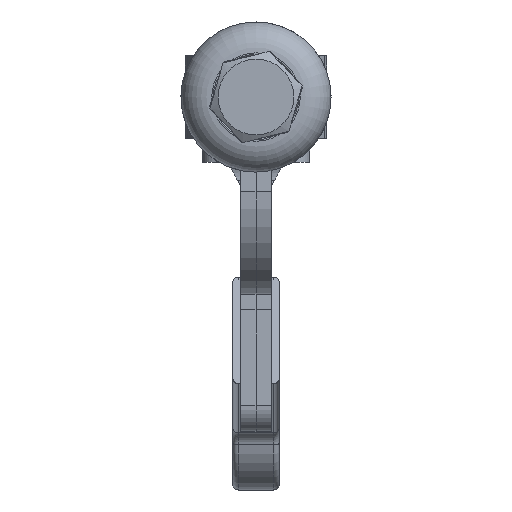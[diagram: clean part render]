
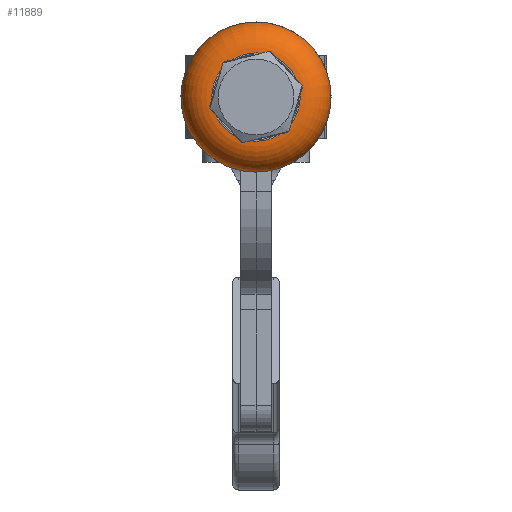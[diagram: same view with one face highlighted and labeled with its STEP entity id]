
A CAD part, left-side view. The second image highlights one B-rep face of the part: STEP entity #11889.
In plain terms, the highlighted toroidal (fillet/blend) face has major radius 8.6 mm and minor radius 6 mm.
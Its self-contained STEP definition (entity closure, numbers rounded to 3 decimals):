
#2711=TOROIDAL_SURFACE('',#12811,8.6,6.);
#3233=FACE_OUTER_BOUND('',#3924,.T.);
#3924=EDGE_LOOP('',(#10697,#10698,#10699,#10700,#10701,#10702));
#4772=CIRCLE('',#12812,14.6);
#4773=CIRCLE('',#12813,14.6);
#4774=CIRCLE('',#12814,6.);
#4775=CIRCLE('',#12815,8.6);
#4776=CIRCLE('',#12816,8.6);
#5838=VERTEX_POINT('',#31049);
#5839=VERTEX_POINT('',#31050);
#5840=VERTEX_POINT('',#31053);
#5841=VERTEX_POINT('',#31055);
#7503=EDGE_CURVE('',#5838,#5839,#4772,.T.);
#7504=EDGE_CURVE('',#5839,#5838,#4773,.T.);
#7505=EDGE_CURVE('',#5839,#5840,#4774,.T.);
#7506=EDGE_CURVE('',#5841,#5840,#4775,.T.);
#7507=EDGE_CURVE('',#5840,#5841,#4776,.T.);
#10697=ORIENTED_EDGE('',*,*,#7503,.F.);
#10698=ORIENTED_EDGE('',*,*,#7504,.F.);
#10699=ORIENTED_EDGE('',*,*,#7505,.T.);
#10700=ORIENTED_EDGE('',*,*,#7506,.F.);
#10701=ORIENTED_EDGE('',*,*,#7507,.F.);
#10702=ORIENTED_EDGE('',*,*,#7505,.F.);
#11889=ADVANCED_FACE('',(#3233),#2711,.T.);
#12811=AXIS2_PLACEMENT_3D('',#31048,#14962,#14963);
#12812=AXIS2_PLACEMENT_3D('',#31051,#14964,#14965);
#12813=AXIS2_PLACEMENT_3D('',#31052,#14966,#14967);
#12814=AXIS2_PLACEMENT_3D('',#31054,#14968,#14969);
#12815=AXIS2_PLACEMENT_3D('',#31056,#14970,#14971);
#12816=AXIS2_PLACEMENT_3D('',#31057,#14972,#14973);
#14962=DIRECTION('center_axis',(1.,0.,0.));
#14963=DIRECTION('ref_axis',(0.,0.,-1.));
#14964=DIRECTION('center_axis',(1.,0.,0.));
#14965=DIRECTION('ref_axis',(0.,0.,-1.));
#14966=DIRECTION('center_axis',(1.,0.,0.));
#14967=DIRECTION('ref_axis',(0.,0.,-1.));
#14968=DIRECTION('center_axis',(0.,-1.,0.));
#14969=DIRECTION('ref_axis',(0.,0.,1.));
#14970=DIRECTION('center_axis',(-1.,0.,0.));
#14971=DIRECTION('ref_axis',(0.,0.,-1.));
#14972=DIRECTION('center_axis',(-1.,0.,0.));
#14973=DIRECTION('ref_axis',(0.,0.,-1.));
#31048=CARTESIAN_POINT('Origin',(6.,0.,0.));
#31049=CARTESIAN_POINT('',(6.,0.,-14.6));
#31050=CARTESIAN_POINT('',(6.,0.,14.6));
#31051=CARTESIAN_POINT('Origin',(6.,0.,0.));
#31052=CARTESIAN_POINT('Origin',(6.,0.,0.));
#31053=CARTESIAN_POINT('',(0.,0.,8.6));
#31054=CARTESIAN_POINT('Origin',(6.,0.,8.6));
#31055=CARTESIAN_POINT('',(0.,0.,-8.6));
#31056=CARTESIAN_POINT('Origin',(0.,0.,0.));
#31057=CARTESIAN_POINT('Origin',(0.,0.,0.));
